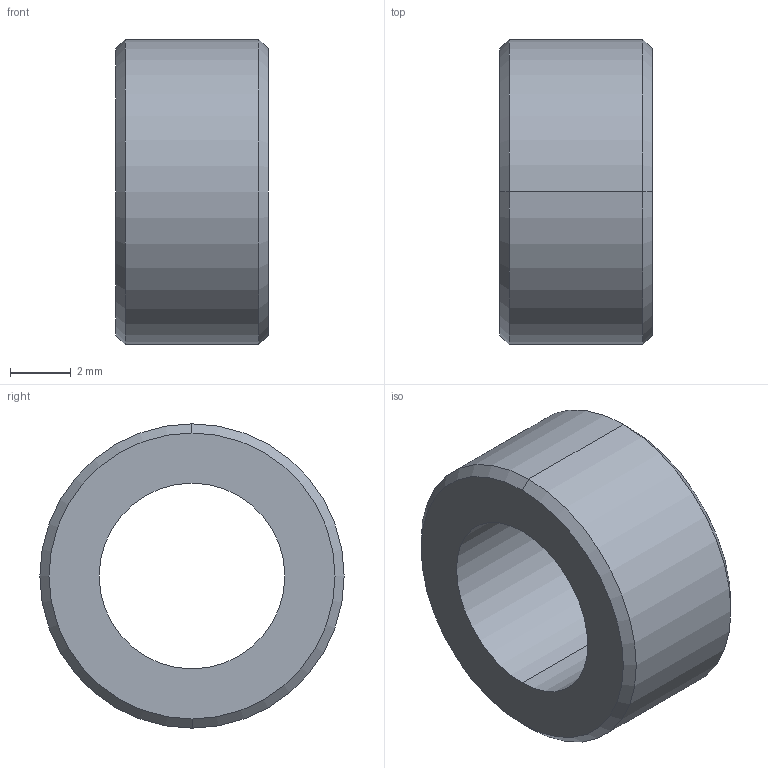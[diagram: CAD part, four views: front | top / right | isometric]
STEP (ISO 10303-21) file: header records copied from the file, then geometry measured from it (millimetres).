
FILE_DESCRIPTION (( 'STEP AP214' ), '1' );
FILE_NAME ('Distanzhuelse.STEP', '2010-10-07T05:23:20', ( 'Grass' ), ( '' ), 'SwSTEP 2.0', 'SolidWorks 2010', '' );
FILE_SCHEMA (( 'AUTOMOTIVE_DESIGN' ));
Length unit declared in the file: millimetre
Products named in the file (1): Distanzhuelse
Bounding box: 5 x 10 x 10 mm (x, y, z)
Volume: 243.8 mm3; surface area: 340.3 mm2
Topology: 1 solids, 1 shells, 10 faces, 20 edges, 12 vertices
Faces by surface type: cone 4, cylinder 4, plane 2
Entity records: 302 total; most frequent: DIRECTION 54, CARTESIAN_POINT 43, ORIENTED_EDGE 40, AXIS2_PLACEMENT_3D 23, EDGE_CURVE 20, CIRCLE 12, VERTEX_POINT 12, EDGE_LOOP 12
